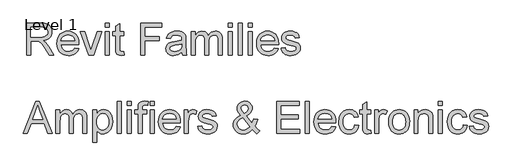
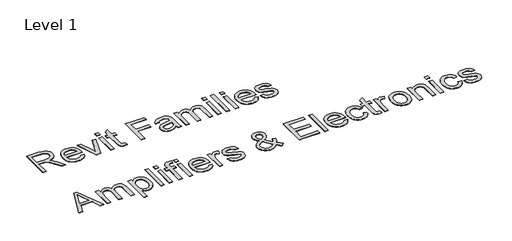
# One storey, part 13 of 14: 1 proxy.
"""IFC4 building model written with IfcOpenShell, lengths in millimetres."""

from ifc_helpers import new_model, si_unit, origin, origin_with_axes, place, context, project, spatial, polyline, outline, extrude, element, save

model = new_model("IFC4")

# Units and contexts
model_context = context("Model", 3, world=origin())
ifc_project = project(units=[si_unit("LENGTHUNIT", "METRE", prefix="MILLI")], contexts=[model_context])

# Site, building, storey
site = spatial("IfcSite", under=ifc_project)
building = spatial("IfcBuilding", under=site)
storey = spatial("IfcBuildingStorey", under=building, Name="Level 1", Elevation=0.0)

# Proxy
placement = place(None, origin())
element("IfcBuildingElementProxy", 1, Name="600mm Arial", ObjectType="600mm Arial", at=placement, inside=storey, context=model_context, shape_type="SweptSolid", body=[
    extrude(outline(polyline([(-11309.2935955, 22041.6162982), (-11309.2935955, 22632.385529), (-11054.7262878, 22632.385529), (-10986.3068167, 22628.401154), (-10936.5291724, 22616.448029), (-10917.3194369, 22606.9468271), (-10900.1469609, 22594.3807213), (-10885.0117446, 22578.7497117), (-10871.9137878, 22560.0537982), (-10861.3443768, 22539.2980891), (-10853.7947974, 22517.4876924), (-10847.755134, 22470.7028367), (-10850.2566364, 22440.3602886), (-10857.7611436, 22412.5057213), (-10870.2686556, 22387.1391347), (-10887.7791724, 22364.260529), (-10910.5180547, 22344.6000722), (-10938.7106628, 22328.8879328), (-10972.356997, 22317.1241107), (-11011.4570571, 22309.3086059), (-10987.1181148, 22293.4071636), (-10969.4859032, 22277.7220674), (-10909.630134, 22201.7124521), (-10811.1205186, 22041.6162982), (-10896.9378263, 22041.6162982), (-10973.8128263, 22164.0682213), (-11029.3416724, 22245.1259136), (-11049.9847013, 22268.7617309), (-11068.3560955, 22283.4191828), (-11103.4762878, 22297.4816828), (-11146.3128263, 22300.0778367), (-11235.4474417, 22300.0778367), (-11235.4474417, 22041.6162982), (-11309.2935955, 22041.6162982)]), holes=[polyline([(-11235.4474417, 22373.9239905), (-11070.1589801, 22373.9239905), (-11022.6890282, 22376.5381732), (-10985.8560955, 22384.3807213), (-10958.1277301, 22397.9744713), (-10937.9714801, 22417.8422597), (-10925.6938359, 22441.8747117), (-10921.6012878, 22467.9624521), (-10923.5529104, 22486.8476684), (-10929.4077782, 22503.9840867), (-10939.1658912, 22519.3717069), (-10952.8272494, 22533.010529), (-10970.7073575, 22544.1793992), (-10993.1217205, 22552.1571636), (-11020.0703383, 22556.9438222), (-11051.5532109, 22558.5393751), (-11235.4474417, 22558.5393751), (-11235.4474417, 22373.9239905)])]), origin_with_axes(), (0.0, 0.0, 1.0), 5.0),
    extrude(outline(polyline([(-10424.005134, 22170.8470674), (-10351.6012878, 22161.6162982), (-10362.7025498, 22132.6168992), (-10377.6890282, 22107.0610097), (-10396.5607229, 22084.9486299), (-10419.317634, 22066.2797597), (-10445.7253864, 22051.4510338), (-10475.5496051, 22040.8590867), (-10508.7902902, 22034.5039184), (-10545.4474417, 22032.385529), (-10591.2677542, 22036.0408775), (-10632.0940763, 22047.0069232), (-10667.926408, 22065.283666), (-10698.7647494, 22090.8711059), (-10723.5634273, 22123.0571035), (-10741.2767686, 22161.1295194), (-10751.9047734, 22205.0883535), (-10755.4474417, 22254.9336059), (-10751.8687157, 22306.4690626), (-10741.1325378, 22351.8927405), (-10723.238908, 22391.2046396), (-10698.1878263, 22424.4047597), (-10667.4306148, 22450.7809617), (-10632.4185955, 22469.6211059), (-10593.1517686, 22480.9251924), (-10549.630134, 22484.6932213), (-10507.5102422, 22480.9342069), (-10469.4197974, 22469.6571636), (-10435.3587998, 22450.8620915), (-10405.3272494, 22424.5489905), (-10380.8125258, 22391.4209857), (-10363.302009, 22352.1812021), (-10352.7956989, 22306.8296396), (-10349.2935955, 22255.3662982), (-10349.7262878, 22235.4624521), (-10681.6012878, 22235.4624521), (-10677.3239441, 22205.994303), (-10668.8188359, 22180.1860097), (-10656.0859633, 22158.0375722), (-10639.1253263, 22139.5489905), (-10618.8744248, 22124.9726684), (-10596.270759, 22114.5610097), (-10571.3143287, 22108.3140146), (-10544.005134, 22106.2316828), (-10504.7022494, 22110.0898559), (-10471.6012878, 22121.6643751), (-10444.7022494, 22141.6763944), (-10424.005134, 22170.8470674)]), holes=[polyline([(-10681.6012878, 22309.3086059), (-10423.1397494, 22309.3086059), (-10433.1277301, 22348.323029), (-10441.7184753, 22363.6655771), (-10452.7070571, 22376.2316828), (-10472.8452782, 22391.3759136), (-10495.7599417, 22402.1932213), (-10521.4510474, 22408.6836059), (-10549.9185955, 22410.8470674), (-10575.8846412, 22409.1208054), (-10599.6962398, 22403.9420194), (-10621.3533912, 22395.3107093), (-10640.8560955, 22383.2268751), (-10657.2217806, 22368.2494112), (-10669.4678744, 22350.9372117), (-10677.5943768, 22331.2902766), (-10681.6012878, 22309.3086059)])]), origin_with_axes(), (0.0, 0.0, 1.0), 5.0),
    extrude(outline(polyline([(-10169.005134, 22041.6162982), (-10321.6012878, 22475.4624521), (-10243.4282109, 22475.4624521), (-10150.9762878, 22215.5586059), (-10123.1397494, 22128.1547597), (-10095.880134, 22210.6547597), (-10002.8512878, 22475.4624521), (-9924.6782109, 22475.4624521), (-10075.3993648, 22041.6162982), (-10169.005134, 22041.6162982)])), origin_with_axes(), (0.0, 0.0, 1.0), 5.0),
    extrude(outline(polyline([(-9860.0628263, 22041.6162982), (-9860.0628263, 22475.4624521), (-9786.2166724, 22475.4624521), (-9786.2166724, 22041.6162982), (-9860.0628263, 22041.6162982)])), origin_with_axes(), (0.0, 0.0, 1.0), 5.0),
    extrude(outline(polyline([(-9860.0628263, 22558.5393751), (-9860.0628263, 22632.385529), (-9786.2166724, 22632.385529), (-9786.2166724, 22558.5393751), (-9860.0628263, 22558.5393751)])), origin_with_axes(), (0.0, 0.0, 1.0), 5.0),
    extrude(outline(polyline([(-9518.5243648, 22103.2028367), (-9509.2935955, 22039.4528367), (-9564.5339801, 22032.385529), (-9599.9786917, 22035.4504328), (-9626.4089801, 22044.6451444), (-9645.0868648, 22058.8158174), (-9657.2743648, 22076.8086059), (-9663.9810955, 22107.7100482), (-9666.2166724, 22160.6066828), (-9666.2166724, 22401.6162982), (-9721.6012878, 22401.6162982), (-9721.6012878, 22475.4624521), (-9666.2166724, 22475.4624521), (-9666.2166724, 22580.8951444), (-9592.3705186, 22624.3086059), (-9592.3705186, 22475.4624521), (-9518.5243648, 22475.4624521), (-9518.5243648, 22401.6162982), (-9592.3705186, 22401.6162982), (-9592.3705186, 22162.7701444), (-9588.4762878, 22124.6932213), (-9575.8560955, 22111.2076444), (-9565.2010474, 22107.4756732), (-9550.6878263, 22106.2316828), (-9518.5243648, 22103.2028367)])), origin_with_axes(), (0.0, 0.0, 1.0), 5.0),
    extrude(outline(polyline([(-9204.6782109, 22041.6162982), (-9204.6782109, 22632.385529), (-8807.755134, 22632.385529), (-8807.755134, 22558.5393751), (-9130.8320571, 22558.5393751), (-9130.8320571, 22383.1547597), (-8853.9089801, 22383.1547597), (-8853.9089801, 22309.3086059), (-9130.8320571, 22309.3086059), (-9130.8320571, 22041.6162982), (-9204.6782109, 22041.6162982)])), origin_with_axes(), (0.0, 0.0, 1.0), 5.0),
    extrude(outline(polyline([(-8438.5243648, 22097.0009136), (-8473.8068167, 22066.7485097), (-8510.1349417, 22046.9528367), (-8548.3380667, 22036.0273559), (-8589.2455186, 22032.385529), (-8622.1256268, 22034.5760338), (-8650.958259, 22041.1475482), (-8675.7434152, 22052.1000722), (-8696.4810955, 22067.4336059), (-8712.855795, 22086.1745915), (-8724.552009, 22107.3494713), (-8731.5697373, 22130.9582453), (-8733.9089801, 22157.0009136), (-8730.3753263, 22187.6138944), (-8719.7743648, 22215.4143751), (-8703.4222013, 22239.2124521), (-8682.6349417, 22257.8182213), (-8658.2058551, 22271.8807213), (-8630.9282109, 22282.0489905), (-8567.0339801, 22293.1547597), (-8491.5291724, 22304.8374521), (-8438.9570571, 22318.5393751), (-8438.5243648, 22334.9816828), (-8443.6084994, 22367.9384136), (-8449.9636676, 22380.1439424), (-8458.8609032, 22389.5009136), (-8474.239509, 22398.8398559), (-8492.9714801, 22405.510529), (-8540.4955186, 22410.8470674), (-8584.4859032, 22407.2953847), (-8615.2070571, 22396.6403367), (-8636.1565763, 22376.9348078), (-8650.8320571, 22346.2316828), (-8724.6782109, 22355.4624521), (-8711.8597013, 22395.8470674), (-8692.7310955, 22427.5778367), (-8665.5075378, 22451.8446636), (-8628.4041724, 22469.8374521), (-8583.0255667, 22480.979279), (-8530.9762878, 22484.6932213), (-8481.0544128, 22481.4119713), (-8441.4810955, 22471.5682213), (-8411.6433551, 22456.7665386), (-8390.9282109, 22438.6114905), (-8377.1902301, 22416.1655771), (-8368.2839801, 22388.4912982), (-8364.6782109, 22323.8759136), (-8364.6782109, 22232.0009136), (-8360.9282109, 22103.7076444), (-8355.3753263, 22071.994904), (-8346.2166724, 22041.6162982), (-8420.0628263, 22041.6162982), (-8431.8897494, 22067.2893751), (-8438.5243648, 22097.0009136)]), holes=[polyline([(-8438.5243648, 22244.6932213), (-8488.1397494, 22232.3975482), (-8557.6589801, 22222.0489905), (-8621.192634, 22210.0778367), (-8637.7250859, 22201.8927405), (-8649.9666724, 22190.6066828), (-8657.5387878, 22177.0850482), (-8660.0628263, 22162.1932213), (-8654.5640282, 22140.2340867), (-8638.067634, 22122.2412982), (-8610.9342205, 22110.2340867), (-8573.5243648, 22106.2316828), (-8533.8609032, 22110.6487501), (-8498.8128263, 22123.8999521), (-8470.3993648, 22143.4251924), (-8450.6397494, 22166.6643751), (-8441.8777301, 22190.6066828), (-8438.9570571, 22223.7797597), (-8438.5243648, 22244.6932213)])]), origin_with_axes(), (0.0, 0.0, 1.0), 5.0),
    extrude(outline(polyline([(-8263.1397494, 22041.6162982), (-8263.1397494, 22475.4624521), (-8189.2935955, 22475.4624521), (-8189.2935955, 22404.0682213), (-8167.0820571, 22436.8626924), (-8138.5243648, 22462.5537982), (-8104.5940763, 22479.1583655), (-8066.2647494, 22484.6932213), (-8025.1950378, 22479.0501924), (-8007.7160715, 22471.9964064), (-7992.2743648, 22462.1211059), (-7967.6830186, 22435.0237501), (-7951.6012878, 22398.8759136), (-7924.6842205, 22436.4209857), (-7893.9810955, 22463.2388944), (-7859.4919128, 22479.3296396), (-7821.2166724, 22484.6932213), (-7791.653872, 22482.4621516), (-7765.7058551, 22475.7689424), (-7743.372622, 22464.6135939), (-7724.6541724, 22448.9961059), (-7709.856997, 22428.73619), (-7699.2875859, 22403.6535578), (-7692.9459393, 22373.7482093), (-7690.8320571, 22339.0201444), (-7690.8320571, 22041.6162982), (-7764.6782109, 22041.6162982), (-7764.6782109, 22307.2893751), (-7766.3909513, 22344.1223078), (-7771.5291724, 22368.948029), (-7781.1565763, 22385.9492309), (-7796.3368648, 22399.3086059), (-7815.8621051, 22407.9624521), (-7838.5243648, 22410.8470674), (-7859.4513479, 22408.9991107), (-7878.5303744, 22403.4552405), (-7895.7614441, 22394.2154569), (-7911.1445571, 22381.2797597), (-7923.7962998, 22364.2695434), (-7932.833259, 22342.8062021), (-7938.2554345, 22316.8897357), (-7940.0628263, 22286.5201444), (-7940.0628263, 22041.6162982), (-8013.9089801, 22041.6162982), (-8013.9089801, 22315.510529), (-8018.1818167, 22357.2653367), (-8031.0003263, 22387.0489905), (-8040.9116845, 22397.4606492), (-8053.5544128, 22404.8975482), (-8068.9285114, 22409.3596876), (-8087.0339801, 22410.8470674), (-8115.4834994, 22406.8807213), (-8141.6974417, 22394.9816828), (-8163.3320571, 22375.4384136), (-8178.0435955, 22348.5393751), (-8186.4810955, 22311.2196636), (-8189.2935955, 22260.4143751), (-8189.2935955, 22041.6162982), (-8263.1397494, 22041.6162982)])), origin_with_axes(), (0.0, 0.0, 1.0), 5.0),
    extrude(outline(polyline([(-7580.0628263, 22041.6162982), (-7580.0628263, 22475.4624521), (-7506.2166724, 22475.4624521), (-7506.2166724, 22041.6162982), (-7580.0628263, 22041.6162982)])), origin_with_axes(), (0.0, 0.0, 1.0), 5.0),
    extrude(outline(polyline([(-7580.0628263, 22558.5393751), (-7580.0628263, 22632.385529), (-7506.2166724, 22632.385529), (-7506.2166724, 22558.5393751), (-7580.0628263, 22558.5393751)])), origin_with_axes(), (0.0, 0.0, 1.0), 5.0),
    extrude(outline(polyline([(-7395.4474417, 22041.6162982), (-7395.4474417, 22632.385529), (-7321.6012878, 22632.385529), (-7321.6012878, 22041.6162982), (-7395.4474417, 22041.6162982)])), origin_with_axes(), (0.0, 0.0, 1.0), 5.0),
    extrude(outline(polyline([(-7210.8320571, 22041.6162982), (-7210.8320571, 22475.4624521), (-7136.9859032, 22475.4624521), (-7136.9859032, 22041.6162982), (-7210.8320571, 22041.6162982)])), origin_with_axes(), (0.0, 0.0, 1.0), 5.0),
    extrude(outline(polyline([(-7210.8320571, 22558.5393751), (-7210.8320571, 22632.385529), (-7136.9859032, 22632.385529), (-7136.9859032, 22558.5393751), (-7210.8320571, 22558.5393751)])), origin_with_axes(), (0.0, 0.0, 1.0), 5.0),
    extrude(outline(polyline([(-6722.4666724, 22170.8470674), (-6650.0628263, 22161.6162982), (-6661.1640883, 22132.6168992), (-6676.1505667, 22107.0610097), (-6695.0222614, 22084.9486299), (-6717.7791724, 22066.2797597), (-6744.1869248, 22051.4510338), (-6774.0111436, 22040.8590867), (-6807.2518287, 22034.5039184), (-6843.9089801, 22032.385529), (-6889.7292926, 22036.0408775), (-6930.5556148, 22047.0069232), (-6966.3879465, 22065.283666), (-6997.2262878, 22090.8711059), (-7022.0249657, 22123.0571035), (-7039.7383071, 22161.1295194), (-7050.3663119, 22205.0883535), (-7053.9089801, 22254.9336059), (-7050.3302542, 22306.4690626), (-7039.5940763, 22351.8927405), (-7021.7004465, 22391.2046396), (-6996.6493648, 22424.4047597), (-6965.8921532, 22450.7809617), (-6930.880134, 22469.6211059), (-6891.6133071, 22480.9251924), (-6848.0916724, 22484.6932213), (-6805.9717806, 22480.9342069), (-6767.8813359, 22469.6571636), (-6733.8203383, 22450.8620915), (-6703.7887878, 22424.5489905), (-6679.2740643, 22391.4209857), (-6661.7635474, 22352.1812021), (-6651.2572373, 22306.8296396), (-6647.755134, 22255.3662982), (-6648.1878263, 22235.4624521), (-6980.0628263, 22235.4624521), (-6975.7854825, 22205.994303), (-6967.2803744, 22180.1860097), (-6954.5475018, 22158.0375722), (-6937.5868648, 22139.5489905), (-6917.3359633, 22124.9726684), (-6894.7322974, 22114.5610097), (-6869.7758672, 22108.3140146), (-6842.4666724, 22106.2316828), (-6803.1637878, 22110.0898559), (-6770.0628263, 22121.6643751), (-6743.1637878, 22141.6763944), (-6722.4666724, 22170.8470674)]), holes=[polyline([(-6980.0628263, 22309.3086059), (-6721.6012878, 22309.3086059), (-6731.5892686, 22348.323029), (-6740.1800138, 22363.6655771), (-6751.1685955, 22376.2316828), (-6771.3068167, 22391.3759136), (-6794.2214801, 22402.1932213), (-6819.9125859, 22408.6836059), (-6848.380134, 22410.8470674), (-6874.3461797, 22409.1208054), (-6898.1577782, 22403.9420194), (-6919.8149297, 22395.3107093), (-6939.317634, 22383.2268751), (-6955.6833191, 22368.2494112), (-6967.9294128, 22350.9372117), (-6976.0559152, 22331.2902766), (-6980.0628263, 22309.3086059)])]), origin_with_axes(), (0.0, 0.0, 1.0), 5.0),
    extrude(outline(polyline([(-6601.6012878, 22170.8470674), (-6527.755134, 22180.0778367), (-6523.2929946, 22163.2388944), (-6516.1084994, 22148.4912982), (-6506.2016484, 22135.8350482), (-6493.5724417, 22125.2701444), (-6478.1848215, 22116.9408174), (-6460.0027301, 22110.9912982), (-6415.255134, 22106.2316828), (-6371.0484032, 22110.5946636), (-6353.8669128, 22116.0483896), (-6339.9666724, 22123.6836059), (-6321.5772494, 22142.6499521), (-6315.4474417, 22164.6451444), (-6316.988908, 22174.6150963), (-6321.6133071, 22183.4672597), (-6340.1109032, 22197.8182213), (-6367.7671532, 22207.1932213), (-6416.1205186, 22218.8759136), (-6483.5123455, 22238.3650963), (-6527.3224417, 22255.0057213), (-6555.4654705, 22273.1607694), (-6575.8560955, 22297.1932213), (-6588.2419128, 22325.5706251), (-6592.3705186, 22356.760529), (-6589.0532109, 22385.3723078), (-6579.1012878, 22411.7845674), (-6563.4161917, 22434.9516347), (-6542.8993648, 22453.8278367), (-6522.5087398, 22465.7088463), (-6495.9522494, 22475.6787982), (-6465.2491244, 22482.4396155), (-6432.4185955, 22484.6932213), (-6384.3536917, 22481.0694232), (-6342.5628263, 22470.198029), (-6308.9570571, 22453.1427405), (-6285.4474417, 22430.9672597), (-6269.8705186, 22402.0309617), (-6260.0628263, 22364.6932213), (-6333.9089801, 22355.4624521), (-6343.2298936, 22378.7016347), (-6361.6734032, 22396.2076444), (-6389.4197974, 22407.1872117), (-6426.6493648, 22410.8470674), (-6469.0532109, 22407.3494713), (-6497.3224417, 22396.8566828), (-6513.223884, 22381.7124521), (-6518.5243648, 22364.260529), (-6516.3248455, 22352.9023559), (-6509.7262878, 22342.7701444), (-6498.4402301, 22333.7196636), (-6482.1782109, 22326.4720674), (-6418.5724417, 22310.7509136), (-6310.1830186, 22275.9912982), (-6281.5532109, 22259.3687021), (-6259.8464801, 22236.6162982), (-6246.1625859, 22207.6619713), (-6241.6012878, 22172.4336059), (-6246.9558551, 22136.0153367), (-6263.0195571, 22101.760529), (-6289.1794128, 22072.3554809), (-6324.8224417, 22050.4864905), (-6367.8753263, 22036.9107694), (-6416.2647494, 22032.385529), (-6456.0093407, 22034.5670194), (-6490.723884, 22041.1114905), (-6520.4083792, 22052.0189424), (-6545.0628263, 22067.2893751), (-6565.2010474, 22086.8506732), (-6581.3368648, 22110.6307213), (-6593.4702782, 22138.6295194), (-6601.6012878, 22170.8470674)])), origin_with_axes(), (0.0, 0.0, 1.0), 5.0),
    extrude(outline(polyline([(-11378.0916724, 20583.1547597), (-11142.2743648, 21173.9239905), (-11079.3897494, 21173.9239905), (-10843.5724417, 20583.1547597), (-10921.6012878, 20583.1547597), (-10989.2455186, 20767.7701444), (-11232.5628263, 20767.7701444), (-11300.0628263, 20583.1547597), (-11378.0916724, 20583.1547597)]), holes=[polyline([(-11205.4474417, 20841.6162982), (-11016.2166724, 20841.6162982), (-11069.4378263, 20986.8566828), (-11110.8320571, 21100.0778367), (-11147.6109032, 20999.5489905), (-11205.4474417, 20841.6162982)])]), origin_with_axes(), (0.0, 0.0, 1.0), 5.0),
    extrude(outline(polyline([(-10773.9089801, 20583.1547597), (-10773.9089801, 21017.0009136), (-10700.0628263, 21017.0009136), (-10700.0628263, 20945.6066828), (-10677.8512878, 20978.401154), (-10649.2935955, 21004.0922597), (-10615.3633071, 21020.6968271), (-10577.0339801, 21026.2316828), (-10535.9642686, 21020.588654), (-10518.4853023, 21013.5348679), (-10503.0435955, 21003.6595674), (-10478.4522494, 20976.5622117), (-10462.3705186, 20940.4143751), (-10435.4534513, 20977.9594472), (-10404.7503263, 21004.7773559), (-10370.2611436, 21020.8681011), (-10331.9859032, 21026.2316828), (-10302.4231027, 21024.0006131), (-10276.4750859, 21017.307404), (-10254.1418527, 21006.1520554), (-10235.4234032, 20990.5345674), (-10220.6262277, 20970.2746516), (-10210.0568167, 20945.1920194), (-10203.71517, 20915.2866708), (-10201.6012878, 20880.5586059), (-10201.6012878, 20583.1547597), (-10275.4474417, 20583.1547597), (-10275.4474417, 20848.8278367), (-10277.1601821, 20885.6607694), (-10282.2984032, 20910.4864905), (-10291.9258071, 20927.4876924), (-10307.1060955, 20940.8470674), (-10326.6313359, 20949.5009136), (-10349.2935955, 20952.385529), (-10370.2205787, 20950.5375722), (-10389.2996051, 20944.9937021), (-10406.5306748, 20935.7539184), (-10421.9137878, 20922.8182213), (-10434.5655306, 20905.8080049), (-10443.6024898, 20884.3446636), (-10449.0246652, 20858.4281972), (-10450.8320571, 20828.0586059), (-10450.8320571, 20583.1547597), (-10524.6782109, 20583.1547597), (-10524.6782109, 20857.0489905), (-10528.9510474, 20898.8037982), (-10541.7695571, 20928.5874521), (-10551.6809152, 20938.9991107), (-10564.3236436, 20946.4360097), (-10579.6977422, 20950.8981492), (-10597.8032109, 20952.385529), (-10626.2527301, 20948.4191828), (-10652.4666724, 20936.5201444), (-10674.1012878, 20916.9768751), (-10688.8128263, 20890.0778367), (-10697.2503263, 20852.7581251), (-10700.0628263, 20801.9528367), (-10700.0628263, 20583.1547597), (-10773.9089801, 20583.1547597)])), origin_with_axes(), (0.0, 0.0, 1.0), 5.0),
    extrude(outline(polyline([(-10090.8320571, 20417.0009136), (-10090.8320571, 21017.0009136), (-10016.9859032, 21017.0009136), (-10016.9859032, 20944.5970674), (-9992.8993648, 20980.3122117), (-9965.9282109, 21005.823029), (-9934.4859032, 21021.1295194), (-9896.9859032, 21026.2316828), (-9871.2316965, 21024.4468271), (-9847.0459994, 21019.0922597), (-9824.4288119, 21010.1679809), (-9803.380134, 20997.6739905), (-9784.3597013, 20981.9348078), (-9767.8272494, 20963.2749521), (-9753.7827782, 20941.6944232), (-9742.2262878, 20917.1932213), (-9726.7575378, 20862.7821636), (-9721.6012878, 20803.3951444), (-9727.4246051, 20740.2400963), (-9734.7037518, 20711.1640747), (-9744.8945571, 20683.7557213), (-9757.8572974, 20658.7316828), (-9773.4522494, 20636.8086059), (-9791.6794128, 20617.9864905), (-9812.5387878, 20602.2653367), (-9835.0072373, 20589.8659977), (-9858.0616244, 20581.0093271), (-9881.7019489, 20575.6953247), (-9905.9282109, 20573.9239905), (-9939.8765282, 20578.6655771), (-9970.1830186, 20592.8903367), (-9996.1265282, 20614.3626924), (-10016.9859032, 20640.8470674), (-10016.9859032, 20417.0009136), (-10090.8320571, 20417.0009136)]), holes=[polyline([(-10016.9859032, 20796.6162982), (-10014.9892085, 20761.0273559), (-10008.9991244, 20730.4143751), (-9999.0156508, 20704.7773559), (-9985.0387878, 20684.1162982), (-9968.2133672, 20668.2148559), (-9949.6842205, 20656.8566828), (-9929.4513479, 20650.041779), (-9907.5147494, 20647.7701444), (-9885.262646, 20650.1229088), (-9864.6601821, 20657.1812021), (-9845.7073575, 20668.9450242), (-9828.4041724, 20685.4143751), (-9813.9856027, 20706.8236299), (-9803.6866244, 20733.4071636), (-9797.5072373, 20765.1649761), (-9795.4474417, 20802.0970674), (-9797.457658, 20837.3795194), (-9803.4883071, 20867.9384136), (-9813.5393888, 20893.7737501), (-9827.6109032, 20914.885529), (-9844.4768888, 20931.291779), (-9862.911384, 20943.010529), (-9882.9143888, 20950.041779), (-9904.4859032, 20952.385529), (-9925.9898095, 20949.893041), (-9946.2226821, 20942.4155771), (-9965.184521, 20929.9531372), (-9982.8753263, 20912.5057213), (-9997.7987037, 20890.3077045), (-10008.458259, 20863.5934617), (-10014.8539922, 20832.3629929), (-10016.9859032, 20796.6162982)])]), origin_with_axes(), (0.0, 0.0, 1.0), 5.0),
    extrude(outline(polyline([(-9638.5243648, 20583.1547597), (-9638.5243648, 21173.9239905), (-9564.6782109, 21173.9239905), (-9564.6782109, 20583.1547597), (-9638.5243648, 20583.1547597)])), origin_with_axes(), (0.0, 0.0, 1.0), 5.0),
    extrude(outline(polyline([(-9453.9089801, 20583.1547597), (-9453.9089801, 21017.0009136), (-9380.0628263, 21017.0009136), (-9380.0628263, 20583.1547597), (-9453.9089801, 20583.1547597)])), origin_with_axes(), (0.0, 0.0, 1.0), 5.0),
    extrude(outline(polyline([(-9453.9089801, 21100.0778367), (-9453.9089801, 21173.9239905), (-9380.0628263, 21173.9239905), (-9380.0628263, 21100.0778367), (-9453.9089801, 21100.0778367)])), origin_with_axes(), (0.0, 0.0, 1.0), 5.0),
    extrude(outline(polyline([(-9250.8320571, 20583.1547597), (-9250.8320571, 20943.1547597), (-9315.4474417, 20943.1547597), (-9315.4474417, 21017.0009136), (-9250.8320571, 21017.0009136), (-9250.8320571, 21060.7028367), (-9248.8849417, 21096.8687021), (-9243.0435955, 21122.2893751), (-9228.1878263, 21146.8446636), (-9205.255134, 21166.2797597), (-9173.1637878, 21178.9360097), (-9130.8320571, 21183.1547597), (-9098.7767686, 21181.135529), (-9063.4762878, 21175.0778367), (-9074.2935955, 21105.8470674), (-9116.8416724, 21109.3086059), (-9144.9125859, 21106.2437021), (-9163.3560955, 21097.0489905), (-9173.5784513, 21079.4888944), (-9176.9859032, 21051.3278367), (-9176.9859032, 21017.0009136), (-9093.9089801, 21017.0009136), (-9093.9089801, 20943.1547597), (-9176.9859032, 20943.1547597), (-9176.9859032, 20583.1547597), (-9250.8320571, 20583.1547597)])), origin_with_axes(), (0.0, 0.0, 1.0), 5.0),
    extrude(outline(polyline([(-9029.2935955, 20583.1547597), (-9029.2935955, 21017.0009136), (-8955.4474417, 21017.0009136), (-8955.4474417, 20583.1547597), (-9029.2935955, 20583.1547597)])), origin_with_axes(), (0.0, 0.0, 1.0), 5.0),
    extrude(outline(polyline([(-9029.2935955, 21100.0778367), (-9029.2935955, 21173.9239905), (-8955.4474417, 21173.9239905), (-8955.4474417, 21100.0778367), (-9029.2935955, 21100.0778367)])), origin_with_axes(), (0.0, 0.0, 1.0), 5.0),
    extrude(outline(polyline([(-8540.9282109, 20712.385529), (-8468.5243648, 20703.1547597), (-8479.6256268, 20674.1553607), (-8494.6121051, 20648.5994713), (-8513.4837998, 20626.4870915), (-8536.2407109, 20607.8182213), (-8562.6484633, 20592.9894953), (-8592.4726821, 20582.3975482), (-8625.7133672, 20576.0423799), (-8662.3705186, 20573.9239905), (-8708.1908311, 20577.5793391), (-8749.0171532, 20588.5453847), (-8784.8494849, 20606.8221275), (-8815.6878263, 20632.4095674), (-8840.4865042, 20664.595565), (-8858.1998455, 20702.6679809), (-8868.8278503, 20746.626815), (-8872.3705186, 20796.4720674), (-8868.7917926, 20848.0075242), (-8858.0556148, 20893.4312021), (-8840.1619849, 20932.7431011), (-8815.1109032, 20965.9432213), (-8784.3536917, 20992.3194232), (-8749.3416724, 21011.1595674), (-8710.0748455, 21022.463654), (-8666.5532109, 21026.2316828), (-8624.4333191, 21022.4726684), (-8586.3428744, 21011.1956251), (-8552.2818768, 20992.400553), (-8522.2503263, 20966.0874521), (-8497.7356027, 20932.9594472), (-8480.2250859, 20893.7196636), (-8469.7187758, 20848.3681011), (-8466.2166724, 20796.9047597), (-8466.6493648, 20777.0009136), (-8798.5243648, 20777.0009136), (-8794.247021, 20747.5327646), (-8785.7419128, 20721.7244713), (-8773.0090402, 20699.5760338), (-8756.0484032, 20681.0874521), (-8735.7975018, 20666.5111299), (-8713.1938359, 20656.0994713), (-8688.2374056, 20649.8524761), (-8660.9282109, 20647.7701444), (-8621.6253263, 20651.6283174), (-8588.5243648, 20663.2028367), (-8561.6253263, 20683.2148559), (-8540.9282109, 20712.385529)]), holes=[polyline([(-8798.5243648, 20850.8470674), (-8540.0628263, 20850.8470674), (-8550.0508071, 20889.8614905), (-8558.6415523, 20905.2040386), (-8569.630134, 20917.7701444), (-8589.7683551, 20932.9143751), (-8612.6830186, 20943.7316828), (-8638.3741244, 20950.2220674), (-8666.8416724, 20952.385529), (-8692.8077181, 20950.659267), (-8716.6193167, 20945.4804809), (-8738.2764681, 20936.8491708), (-8757.7791724, 20924.7653367), (-8774.1448575, 20909.7878727), (-8786.3909513, 20892.4756732), (-8794.5174537, 20872.8287381), (-8798.5243648, 20850.8470674)])]), origin_with_axes(), (0.0, 0.0, 1.0), 5.0),
    extrude(outline(polyline([(-8392.3705186, 20583.1547597), (-8392.3705186, 21017.0009136), (-8327.755134, 21017.0009136), (-8327.755134, 20952.8182213), (-8303.8849417, 20990.0297597), (-8281.8897494, 21011.9528367), (-8259.8224417, 21022.6619713), (-8235.7359032, 21026.2316828), (-8198.9570571, 21020.5345674), (-8161.6012878, 21003.4432213), (-8186.2647494, 20937.2412982), (-8212.2262878, 20948.5994713), (-8238.1878263, 20952.385529), (-8260.2371051, 20948.7437021), (-8279.942634, 20937.8182213), (-8295.8621051, 20920.4384136), (-8306.5532109, 20897.4336059), (-8315.5315763, 20856.1836059), (-8318.5243648, 20811.1836059), (-8318.5243648, 20583.1547597), (-8392.3705186, 20583.1547597)])), origin_with_axes(), (0.0, 0.0, 1.0), 5.0),
    extrude(outline(polyline([(-8143.1397494, 20712.385529), (-8069.2935955, 20721.6162982), (-8064.8314561, 20704.7773559), (-8057.6469609, 20690.0297597), (-8047.7401099, 20677.3735097), (-8035.1109032, 20666.8086059), (-8019.723283, 20658.479279), (-8001.5411917, 20652.5297597), (-7956.7935955, 20647.7701444), (-7912.5868648, 20652.1331251), (-7895.4053744, 20657.5868511), (-7881.505134, 20665.2220674), (-7863.1157109, 20684.1884136), (-7856.9859032, 20706.1836059), (-7858.5273696, 20716.1535578), (-7863.1517686, 20725.0057213), (-7881.6493648, 20739.3566828), (-7909.3056148, 20748.7316828), (-7957.6589801, 20760.4143751), (-8025.0508071, 20779.9035578), (-8068.8609032, 20796.5441828), (-8097.0039321, 20814.6992309), (-8117.3945571, 20838.7316828), (-8129.7803744, 20867.1090867), (-8133.9089801, 20898.2989905), (-8130.5916724, 20926.9107694), (-8120.6397494, 20953.323029), (-8104.9546532, 20976.4900963), (-8084.4378263, 20995.3662982), (-8064.0472013, 21007.2473078), (-8037.4907109, 21017.2172597), (-8006.7875859, 21023.9780771), (-7973.9570571, 21026.2316828), (-7925.8921532, 21022.6078847), (-7884.1012878, 21011.7364905), (-7850.4955186, 20994.6812021), (-7826.9859032, 20972.5057213), (-7811.4089801, 20943.5694232), (-7801.6012878, 20906.2316828), (-7875.4474417, 20897.0009136), (-7884.7683551, 20920.2400963), (-7903.2118648, 20937.7461059), (-7930.958259, 20948.7256732), (-7968.1878263, 20952.385529), (-8010.5916724, 20948.8879328), (-8038.8609032, 20938.3951444), (-8054.7623455, 20923.2509136), (-8060.0628263, 20905.7989905), (-8057.8633071, 20894.4408174), (-8051.2647494, 20884.3086059), (-8039.9786917, 20875.2581251), (-8023.7166724, 20868.010529), (-7960.1109032, 20852.2893751), (-7851.7214801, 20817.5297597), (-7823.0916724, 20800.9071636), (-7801.3849417, 20778.1547597), (-7787.7010474, 20749.2004328), (-7783.1397494, 20713.9720674), (-7788.4943167, 20677.5537982), (-7804.5580186, 20643.2989905), (-7830.7178744, 20613.8939424), (-7866.3609032, 20592.0249521), (-7909.4137878, 20578.4492309), (-7957.8032109, 20573.9239905), (-7997.5478023, 20576.1054809), (-8032.2623455, 20582.6499521), (-8061.9468407, 20593.557404), (-8086.6012878, 20608.8278367), (-8106.739509, 20628.3891347), (-8122.8753263, 20652.1691828), (-8135.0087398, 20680.1679809), (-8143.1397494, 20712.385529)])), origin_with_axes(), (0.0, 0.0, 1.0), 5.0),
    extrude(outline(polyline([(-7130.4955186, 20656.135529), (-7168.0315763, 20620.1679809), (-7208.8128263, 20594.4768751), (-7252.911384, 20579.0622117), (-7300.3993648, 20573.9239905), (-7343.4883071, 20577.7280771), (-7381.8897494, 20589.1403367), (-7415.6036917, 20608.1607694), (-7444.630134, 20634.7893751), (-7463.4973215, 20660.3272357), (-7476.973884, 20687.3254328), (-7485.0598215, 20715.7839665), (-7487.755134, 20745.7028367), (-7485.5871652, 20772.2322838), (-7479.083259, 20797.4456251), (-7468.2434152, 20821.3428607), (-7453.067634, 20843.9239905), (-7433.5829585, 20865.1800001), (-7409.8164321, 20885.1018751), (-7381.7680547, 20903.6896155), (-7349.4378263, 20920.9432213), (-7381.6553744, 20962.6259136), (-7401.0003263, 20995.6547597), (-7410.6818167, 21023.8518751), (-7413.9089801, 21051.0393751), (-7411.3669128, 21076.8476684), (-7403.7407109, 21100.9071636), (-7391.0303744, 21123.2178607), (-7373.2359032, 21143.7797597), (-7351.5922734, 21161.0063222), (-7327.3344609, 21173.3110097), (-7300.4624657, 21180.6938222), (-7270.9762878, 21183.1547597), (-7242.8242446, 21180.8019953), (-7217.3584994, 21173.7437021), (-7194.5790523, 21161.9798799), (-7174.4859032, 21145.510529), (-7158.0796532, 21125.7418992), (-7146.3609032, 21104.0802405), (-7139.3296532, 21080.525553), (-7136.9859032, 21055.0778367), (-7138.7211797, 21034.119303), (-7143.927009, 21013.9360097), (-7152.6033912, 20994.5279569), (-7164.7503263, 20975.8951444), (-7199.4558551, 20940.9552405), (-7248.0435955, 20909.1162982), (-7141.1685955, 20775.9912982), (-7122.9594609, 20814.0321636), (-7109.2935955, 20857.7701444), (-7035.4474417, 20841.760529), (-7058.1637878, 20773.3590867), (-7072.0640282, 20744.8644953), (-7087.6589801, 20720.1739905), (-7045.6878263, 20671.2076444), (-6998.5243648, 20630.7509136), (-7053.9089801, 20573.9239905), (-7091.5892686, 20608.3951444), (-7130.4955186, 20656.135529)]), holes=[polyline([(-7285.3993648, 20955.7028367), (-7246.7815763, 20980.2040386), (-7224.6782109, 21001.4961059), (-7214.2935955, 21022.2112501), (-7210.8320571, 21044.9816828), (-7215.3933551, 21070.7809617), (-7229.0772494, 21091.3518751), (-7249.6121051, 21104.8194232), (-7274.7262878, 21109.3086059), (-7300.3813359, 21104.8554809), (-7321.3849417, 21091.4961059), (-7335.3933551, 21071.7184617), (-7340.0628263, 21048.010529), (-7333.7166724, 21020.9672597), (-7314.5339801, 20990.8951444), (-7285.3993648, 20955.7028367)]), polyline([(-7179.9666724, 20709.3566828), (-7311.7935955, 20873.9239905), (-7362.1481628, 20841.7965867), (-7392.9234032, 20812.0489905), (-7408.6625859, 20783.635529), (-7413.9089801, 20755.510529), (-7412.1151099, 20738.2569232), (-7406.7334994, 20720.6787982), (-7385.2070571, 20684.5489905), (-7369.3597013, 20668.4582453), (-7350.5195571, 20656.9648559), (-7328.6866244, 20650.0688222), (-7303.8609032, 20647.7701444), (-7270.4534513, 20652.0610097), (-7236.0003263, 20664.9336059), (-7204.5039321, 20684.6211059), (-7179.9666724, 20709.3566828)])]), origin_with_axes(), (0.0, 0.0, 1.0), 5.0),
    extrude(outline(polyline([(-6684.6782109, 20583.1547597), (-6684.6782109, 21173.9239905), (-6260.0628263, 21173.9239905), (-6260.0628263, 21100.0778367), (-6610.8320571, 21100.0778367), (-6610.8320571, 20924.6932213), (-6278.5243648, 20924.6932213), (-6278.5243648, 20850.8470674), (-6610.8320571, 20850.8470674), (-6610.8320571, 20657.0009136), (-6250.8320571, 20657.0009136), (-6250.8320571, 20583.1547597), (-6684.6782109, 20583.1547597)])), origin_with_axes(), (0.0, 0.0, 1.0), 5.0),
    extrude(outline(polyline([(-6149.2935955, 20583.1547597), (-6149.2935955, 21173.9239905), (-6075.4474417, 21173.9239905), (-6075.4474417, 20583.1547597), (-6149.2935955, 20583.1547597)])), origin_with_axes(), (0.0, 0.0, 1.0), 5.0),
    extrude(outline(polyline([(-5660.9282109, 20712.385529), (-5588.5243648, 20703.1547597), (-5599.6256268, 20674.1553607), (-5614.6121051, 20648.5994713), (-5633.4837998, 20626.4870915), (-5656.2407109, 20607.8182213), (-5682.6484633, 20592.9894953), (-5712.4726821, 20582.3975482), (-5745.7133672, 20576.0423799), (-5782.3705186, 20573.9239905), (-5828.1908311, 20577.5793391), (-5869.0171532, 20588.5453847), (-5904.8494849, 20606.8221275), (-5935.6878263, 20632.4095674), (-5960.4865042, 20664.595565), (-5978.1998455, 20702.6679809), (-5988.8278503, 20746.626815), (-5992.3705186, 20796.4720674), (-5988.7917926, 20848.0075242), (-5978.0556148, 20893.4312021), (-5960.1619849, 20932.7431011), (-5935.1109032, 20965.9432213), (-5904.3536917, 20992.3194232), (-5869.3416724, 21011.1595674), (-5830.0748455, 21022.463654), (-5786.5532109, 21026.2316828), (-5744.4333191, 21022.4726684), (-5706.3428744, 21011.1956251), (-5672.2818768, 20992.400553), (-5642.2503263, 20966.0874521), (-5617.7356027, 20932.9594472), (-5600.2250859, 20893.7196636), (-5589.7187758, 20848.3681011), (-5586.2166724, 20796.9047597), (-5586.6493648, 20777.0009136), (-5918.5243648, 20777.0009136), (-5914.247021, 20747.5327646), (-5905.7419128, 20721.7244713), (-5893.0090402, 20699.5760338), (-5876.0484032, 20681.0874521), (-5855.7975018, 20666.5111299), (-5833.1938359, 20656.0994713), (-5808.2374056, 20649.8524761), (-5780.9282109, 20647.7701444), (-5741.6253263, 20651.6283174), (-5708.5243648, 20663.2028367), (-5681.6253263, 20683.2148559), (-5660.9282109, 20712.385529)]), holes=[polyline([(-5918.5243648, 20850.8470674), (-5660.0628263, 20850.8470674), (-5670.0508071, 20889.8614905), (-5678.6415523, 20905.2040386), (-5689.630134, 20917.7701444), (-5709.7683551, 20932.9143751), (-5732.6830186, 20943.7316828), (-5758.3741244, 20950.2220674), (-5786.8416724, 20952.385529), (-5812.8077181, 20950.659267), (-5836.6193167, 20945.4804809), (-5858.2764681, 20936.8491708), (-5877.7791724, 20924.7653367), (-5894.1448575, 20909.7878727), (-5906.3909513, 20892.4756732), (-5914.5174537, 20872.8287381), (-5918.5243648, 20850.8470674)])]), origin_with_axes(), (0.0, 0.0, 1.0), 5.0),
    extrude(outline(polyline([(-5235.4474417, 20740.0778367), (-5161.6012878, 20730.8470674), (-5169.6331388, 20696.001815), (-5182.1902301, 20665.1679809), (-5199.2725619, 20638.345565), (-5220.880134, 20615.5345674), (-5246.1024898, 20597.32994), (-5274.0291724, 20584.3266347), (-5304.6601821, 20576.5246516), (-5337.9955186, 20573.9239905), (-5379.4122854, 20577.5522958), (-5416.5472013, 20588.4372117), (-5449.4002662, 20606.5787381), (-5477.9714801, 20631.9768751), (-5501.0979825, 20664.1538583), (-5517.6169128, 20702.6319232), (-5527.528271, 20747.4110698), (-5530.8320571, 20798.4912982), (-5525.1890282, 20864.2064424), (-5518.1352422, 20893.7782573), (-5508.2599417, 20921.1595674), (-5495.4955186, 20945.8004929), (-5479.7743648, 20967.151154), (-5461.0964801, 20985.2115506), (-5439.4618648, 20999.9816828), (-5415.8485835, 21011.4660578), (-5391.2347013, 21019.6691828), (-5365.6202181, 21024.5910578), (-5339.005134, 21026.2316828), (-5306.2422133, 21023.9780771), (-5276.6072974, 21017.2172597), (-5250.1003864, 21005.9492309), (-5226.7214801, 20990.1739905), (-5206.8672133, 20970.2521155), (-5190.9342205, 20946.5441828), (-5178.9225018, 20919.0501924), (-5170.8320571, 20887.7701444), (-5244.6782109, 20878.5393751), (-5258.0736436, 20910.7569232), (-5278.9330186, 20933.8518751), (-5306.1024898, 20947.7521155), (-5338.4282109, 20952.385529), (-5363.5198575, 20950.1048799), (-5386.1505667, 20943.2629328), (-5406.3203383, 20931.8596876), (-5424.0291724, 20915.8951444), (-5438.4477422, 20894.9997117), (-5448.7467205, 20868.8037982), (-5454.9261075, 20837.307404), (-5456.9859032, 20800.510529), (-5454.9711797, 20763.159267), (-5448.927009, 20731.2977886), (-5438.8533912, 20704.9260939), (-5424.7503263, 20684.0441828), (-5407.3930547, 20668.174291), (-5387.5568167, 20656.838654), (-5365.2416123, 20650.0372718), (-5340.4474417, 20647.7701444), (-5302.208259, 20653.4312021), (-5285.6712998, 20660.5075242), (-5270.8560955, 20670.4143751), (-5258.1773095, 20683.259928), (-5248.0496051, 20699.1523559), (-5240.4729825, 20718.0916588), (-5235.4474417, 20740.0778367)])), origin_with_axes(), (0.0, 0.0, 1.0), 5.0),
    extrude(outline(polyline([(-4940.0628263, 20644.7412982), (-4930.8320571, 20580.9912982), (-4986.0724417, 20573.9239905), (-5021.5171532, 20576.9888944), (-5047.9474417, 20586.1836059), (-5066.6253263, 20600.354279), (-5078.8128263, 20618.3470674), (-5085.5195571, 20649.2485097), (-5087.755134, 20702.1451444), (-5087.755134, 20943.1547597), (-5143.1397494, 20943.1547597), (-5143.1397494, 21017.0009136), (-5087.755134, 21017.0009136), (-5087.755134, 21122.4336059), (-5013.9089801, 21165.8470674), (-5013.9089801, 21017.0009136), (-4940.0628263, 21017.0009136), (-4940.0628263, 20943.1547597), (-5013.9089801, 20943.1547597), (-5013.9089801, 20704.3086059), (-5010.0147494, 20666.2316828), (-4997.3945571, 20652.7461059), (-4986.739509, 20649.0141347), (-4972.2262878, 20647.7701444), (-4940.0628263, 20644.7412982)])), origin_with_axes(), (0.0, 0.0, 1.0), 5.0),
    extrude(outline(polyline([(-4866.2166724, 20583.1547597), (-4866.2166724, 21017.0009136), (-4801.6012878, 21017.0009136), (-4801.6012878, 20952.8182213), (-4777.7310955, 20990.0297597), (-4755.7359032, 21011.9528367), (-4733.6685955, 21022.6619713), (-4709.5820571, 21026.2316828), (-4672.8032109, 21020.5345674), (-4635.4474417, 21003.4432213), (-4660.1109032, 20937.2412982), (-4686.0724417, 20948.5994713), (-4712.0339801, 20952.385529), (-4734.083259, 20948.7437021), (-4753.7887878, 20937.8182213), (-4769.708259, 20920.4384136), (-4780.3993648, 20897.4336059), (-4789.3777301, 20856.1836059), (-4792.3705186, 20811.1836059), (-4792.3705186, 20583.1547597), (-4866.2166724, 20583.1547597)])), origin_with_axes(), (0.0, 0.0, 1.0), 5.0),
    extrude(outline(polyline([(-4607.755134, 20800.0778367), (-4603.7617446, 20856.2647357), (-4591.7815763, 20904.6812021), (-4571.8146292, 20945.3272357), (-4543.8609032, 20978.2028367), (-4515.7178744, 20999.2154569), (-4484.6541724, 21014.2244713), (-4450.6697974, 21023.2298799), (-4413.7647494, 21026.2316828), (-4373.0240643, 21022.5763343), (-4336.1866244, 21011.6102886), (-4303.2524297, 20993.3335458), (-4274.2214801, 20967.7461059), (-4250.5270691, 20935.7133535), (-4233.6024898, 20898.1006732), (-4223.4477422, 20854.908065), (-4220.0628263, 20806.135529), (-4221.5592205, 20766.6072838), (-4226.0484032, 20731.5321636), (-4233.5303744, 20700.9101684), (-4244.005134, 20674.7412982), (-4257.3419729, 20652.1376323), (-4273.4101821, 20632.2112501), (-4292.2097614, 20614.9621516), (-4313.7407109, 20600.3903367), (-4337.1646893, 20588.8113102), (-4361.6433551, 20580.5405771), (-4387.1767085, 20575.5781372), (-4413.7647494, 20573.9239905), (-4455.1003864, 20577.5658174), (-4492.2803744, 20588.4912982), (-4525.3047133, 20606.7004328), (-4554.1734032, 20632.1932213), (-4577.6154104, 20664.5369713), (-4594.3597013, 20703.2989905), (-4604.4062758, 20748.479279), (-4607.755134, 20800.0778367)]), holes=[polyline([(-4533.9089801, 20800.2220674), (-4531.7725619, 20764.4032573), (-4525.3633071, 20733.3891347), (-4514.6812157, 20707.1796997), (-4499.7262878, 20685.7749521), (-4481.5351821, 20669.1478487), (-4461.1445571, 20657.2713463), (-4438.5544128, 20650.1454448), (-4413.7647494, 20647.7701444), (-4389.1012878, 20650.1589665), (-4366.6012878, 20657.3254328), (-4346.2647494, 20669.2695434), (-4328.0916724, 20685.9912982), (-4313.1367446, 20707.6078847), (-4302.4546532, 20734.2364905), (-4296.0453984, 20765.8771155), (-4293.9089801, 20802.5297597), (-4296.05892, 20837.2127525), (-4302.5087398, 20867.4155771), (-4313.2584393, 20893.1382333), (-4328.3080186, 20914.3807213), (-4346.5487037, 20931.0078247), (-4366.8717205, 20942.8843271), (-4389.2770691, 20950.0102285), (-4413.7647494, 20952.385529), (-4438.5544128, 20950.0192429), (-4461.1445571, 20942.9203847), (-4481.5351821, 20931.0889545), (-4499.7262878, 20914.5249521), (-4514.6812157, 20893.1833054), (-4525.3633071, 20867.0189424), (-4531.7725619, 20836.0318631), (-4533.9089801, 20800.2220674)])]), origin_with_axes(), (0.0, 0.0, 1.0), 5.0),
    extrude(outline(polyline([(-4136.9859032, 20583.1547597), (-4136.9859032, 21017.0009136), (-4063.1397494, 21017.0009136), (-4063.1397494, 20956.4239905), (-4037.4847013, 20986.9648559), (-4006.6734032, 21008.7797597), (-3970.7058551, 21021.8687021), (-3929.5820571, 21026.2316828), (-3893.1818167, 21022.7160578), (-3859.8464801, 21012.1691828), (-3832.0459994, 20995.9071636), (-3812.2503263, 20975.2461059), (-3798.8188359, 20950.2400963), (-3790.1109032, 20920.9432213), (-3786.2166724, 20849.5489905), (-3786.2166724, 20583.1547597), (-3860.0628263, 20583.1547597), (-3860.0628263, 20839.5970674), (-3862.1902301, 20877.7821636), (-3868.5724417, 20904.9336059), (-3880.3452782, 20924.3867309), (-3898.6445571, 20939.4768751), (-3922.1000859, 20949.1583655), (-3949.3416724, 20952.385529), (-3971.7650498, 20950.5736299), (-3992.5928744, 20945.1379328), (-4011.825146, 20936.0784376), (-4029.4618648, 20923.3951444), (-4044.1959393, 20905.6457453), (-4054.7202782, 20881.3879328), (-4061.0348816, 20850.6217069), (-4063.1397494, 20813.3470674), (-4063.1397494, 20583.1547597), (-4136.9859032, 20583.1547597)])), origin_with_axes(), (0.0, 0.0, 1.0), 5.0),
    extrude(outline(polyline([(-3684.6782109, 20583.1547597), (-3684.6782109, 21017.0009136), (-3610.8320571, 21017.0009136), (-3610.8320571, 20583.1547597), (-3684.6782109, 20583.1547597)])), origin_with_axes(), (0.0, 0.0, 1.0), 5.0),
    extrude(outline(polyline([(-3684.6782109, 21100.0778367), (-3684.6782109, 21173.9239905), (-3610.8320571, 21173.9239905), (-3610.8320571, 21100.0778367), (-3684.6782109, 21100.0778367)])), origin_with_axes(), (0.0, 0.0, 1.0), 5.0),
    extrude(outline(polyline([(-3223.1397494, 20740.0778367), (-3149.2935955, 20730.8470674), (-3157.3254465, 20696.001815), (-3169.8825378, 20665.1679809), (-3186.9648696, 20638.345565), (-3208.5724417, 20615.5345674), (-3233.7947974, 20597.32994), (-3261.7214801, 20584.3266347), (-3292.3524898, 20576.5246516), (-3325.6878263, 20573.9239905), (-3367.1045931, 20577.5522958), (-3404.239509, 20588.4372117), (-3437.0925739, 20606.5787381), (-3465.6637878, 20631.9768751), (-3488.7902902, 20664.1538583), (-3505.3092205, 20702.6319232), (-3515.2205787, 20747.4110698), (-3518.5243648, 20798.4912982), (-3512.8813359, 20864.2064424), (-3505.8275498, 20893.7782573), (-3495.9522494, 20921.1595674), (-3483.1878263, 20945.8004929), (-3467.4666724, 20967.151154), (-3448.7887878, 20985.2115506), (-3427.1541724, 20999.9816828), (-3403.5408912, 21011.4660578), (-3378.927009, 21019.6691828), (-3353.3125258, 21024.5910578), (-3326.6974417, 21026.2316828), (-3293.934521, 21023.9780771), (-3264.2996051, 21017.2172597), (-3237.7926941, 21005.9492309), (-3214.4137878, 20990.1739905), (-3194.559521, 20970.2521155), (-3178.6265282, 20946.5441828), (-3166.6148095, 20919.0501924), (-3158.5243648, 20887.7701444), (-3232.3705186, 20878.5393751), (-3245.7659513, 20910.7569232), (-3266.6253263, 20933.8518751), (-3293.7947974, 20947.7521155), (-3326.1205186, 20952.385529), (-3351.2121652, 20950.1048799), (-3373.8428744, 20943.2629328), (-3394.012646, 20931.8596876), (-3411.7214801, 20915.8951444), (-3426.1400498, 20894.9997117), (-3436.4390282, 20868.8037982), (-3442.6184152, 20837.307404), (-3444.6782109, 20800.510529), (-3442.6634873, 20763.159267), (-3436.6193167, 20731.2977886), (-3426.5456989, 20704.9260939), (-3412.442634, 20684.0441828), (-3395.0853623, 20668.174291), (-3375.2491244, 20656.838654), (-3352.93392, 20650.0372718), (-3328.1397494, 20647.7701444), (-3289.9005667, 20653.4312021), (-3273.3636075, 20660.5075242), (-3258.5484032, 20670.4143751), (-3245.8696172, 20683.259928), (-3235.7419128, 20699.1523559), (-3228.1652902, 20718.0916588), (-3223.1397494, 20740.0778367)])), origin_with_axes(), (0.0, 0.0, 1.0), 5.0),
    extrude(outline(polyline([(-3112.3705186, 20712.385529), (-3038.5243648, 20721.6162982), (-3034.0622253, 20704.7773559), (-3026.8777301, 20690.0297597), (-3016.9708792, 20677.3735097), (-3004.3416724, 20666.8086059), (-2988.9540523, 20658.479279), (-2970.7719609, 20652.5297597), (-2926.0243648, 20647.7701444), (-2881.817634, 20652.1331251), (-2864.6361436, 20657.5868511), (-2850.7359032, 20665.2220674), (-2832.3464801, 20684.1884136), (-2826.2166724, 20706.1836059), (-2827.7581388, 20716.1535578), (-2832.3825378, 20725.0057213), (-2850.880134, 20739.3566828), (-2878.536384, 20748.7316828), (-2926.8897494, 20760.4143751), (-2994.2815763, 20779.9035578), (-3038.0916724, 20796.5441828), (-3066.2347013, 20814.6992309), (-3086.6253263, 20838.7316828), (-3099.0111436, 20867.1090867), (-3103.1397494, 20898.2989905), (-3099.8224417, 20926.9107694), (-3089.8705186, 20953.323029), (-3074.1854224, 20976.4900963), (-3053.6685955, 20995.3662982), (-3033.2779705, 21007.2473078), (-3006.7214801, 21017.2172597), (-2976.0183551, 21023.9780771), (-2943.1878263, 21026.2316828), (-2895.1229224, 21022.6078847), (-2853.3320571, 21011.7364905), (-2819.7262878, 20994.6812021), (-2796.2166724, 20972.5057213), (-2780.6397494, 20943.5694232), (-2770.8320571, 20906.2316828), (-2844.6782109, 20897.0009136), (-2853.9991244, 20920.2400963), (-2872.442634, 20937.7461059), (-2900.1890282, 20948.7256732), (-2937.4185955, 20952.385529), (-2979.8224417, 20948.8879328), (-3008.0916724, 20938.3951444), (-3023.9931148, 20923.2509136), (-3029.2935955, 20905.7989905), (-3027.0940763, 20894.4408174), (-3020.4955186, 20884.3086059), (-3009.2094609, 20875.2581251), (-2992.9474417, 20868.010529), (-2929.3416724, 20852.2893751), (-2820.9522494, 20817.5297597), (-2792.3224417, 20800.9071636), (-2770.6157109, 20778.1547597), (-2756.9318167, 20749.2004328), (-2752.3705186, 20713.9720674), (-2757.7250859, 20677.5537982), (-2773.7887878, 20643.2989905), (-2799.9486436, 20613.8939424), (-2835.5916724, 20592.0249521), (-2878.6445571, 20578.4492309), (-2927.0339801, 20573.9239905), (-2966.7785715, 20576.1054809), (-3001.4931148, 20582.6499521), (-3031.1776099, 20593.557404), (-3055.8320571, 20608.8278367), (-3075.9702782, 20628.3891347), (-3092.1060955, 20652.1691828), (-3104.239509, 20680.1679809), (-3112.3705186, 20712.385529)])), origin_with_axes(), (0.0, 0.0, 1.0), 5.0),
])

save(model, "model.ifc")
